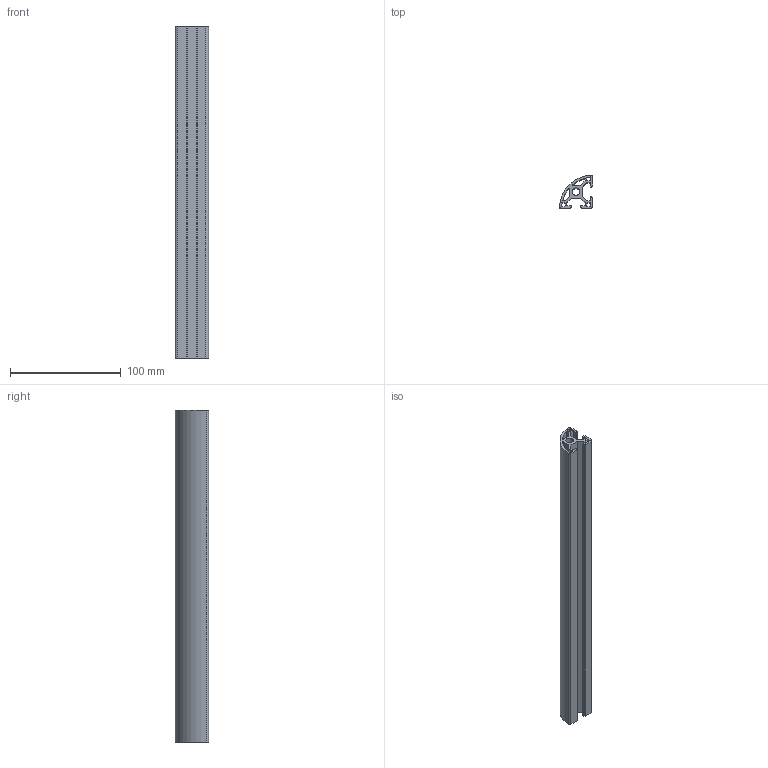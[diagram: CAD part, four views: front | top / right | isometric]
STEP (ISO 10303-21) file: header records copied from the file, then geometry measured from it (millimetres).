
FILE_DESCRIPTION (( 'STEP AP203' ), '1' );
FILE_NAME ('13-CE-3030R-8.STEP', '2015-07-07T02:55:23', ( '' ), ( '' ), 'SwSTEP 2.0', 'SolidWorks 2013', '' );
FILE_SCHEMA (( 'CONFIG_CONTROL_DESIGN' ));
Length unit declared in the file: millimetre
Products named in the file (1): 13-CE-3030R-8
Bounding box: 29.96 x 29.96 x 300 mm (x, y, z)
Volume: 94543.8 mm3; surface area: 85246.8 mm2
Topology: 1 solids, 1 shells, 82 faces, 240 edges, 160 vertices
Faces by surface type: plane 48, cylinder 34
Entity records: 2833 total; most frequent: CARTESIAN_POINT 483, ORIENTED_EDGE 480, DIRECTION 474, EDGE_CURVE 240, LINE 172, VECTOR 172, VERTEX_POINT 160, AXIS2_PLACEMENT_3D 151
